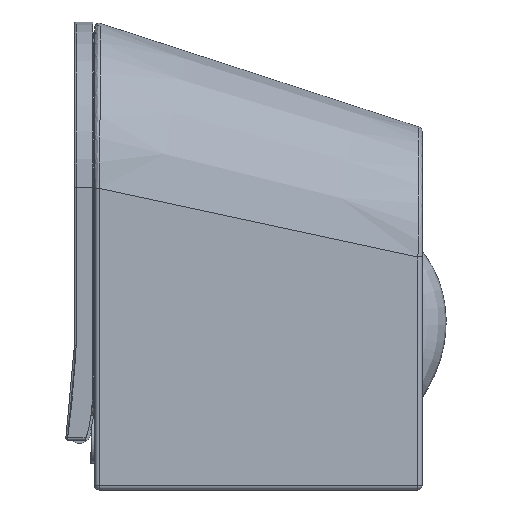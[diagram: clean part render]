
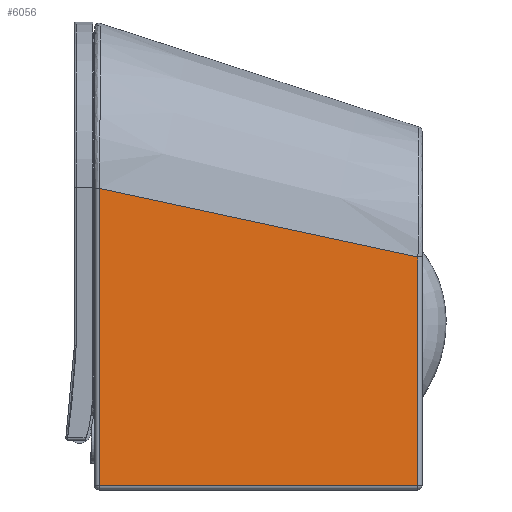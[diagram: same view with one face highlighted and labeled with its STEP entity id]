
A CAD part, left-side view. The second image highlights one B-rep face of the part: STEP entity #6056.
In plain terms, the highlighted planar face has unit normal (-0.995, -0.104, 0).
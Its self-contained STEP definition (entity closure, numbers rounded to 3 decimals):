
#821=FACE_OUTER_BOUND('',#1217,.T.);
#1217=EDGE_LOOP('',(#4088,#4089,#4090,#4091));
#1750=LINE('',#10551,#2137);
#1751=LINE('',#10556,#2138);
#1753=LINE('',#10562,#2140);
#1754=LINE('',#10563,#2141);
#2137=VECTOR('',#7328,251.155);
#2138=VECTOR('',#7335,351.928);
#2140=VECTOR('',#7341,359.917);
#2141=VECTOR('',#7342,326.568);
#2531=VERTEX_POINT('',#10296);
#2532=VERTEX_POINT('',#10549);
#2533=VERTEX_POINT('',#10555);
#2535=VERTEX_POINT('',#10561);
#3117=EDGE_CURVE('',#2531,#2532,#1750,.T.);
#3119=EDGE_CURVE('',#2533,#2532,#1751,.T.);
#3122=EDGE_CURVE('',#2535,#2531,#1753,.T.);
#3123=EDGE_CURVE('',#2533,#2535,#1754,.T.);
#4088=ORIENTED_EDGE('',*,*,#3119,.T.);
#4089=ORIENTED_EDGE('',*,*,#3117,.F.);
#4090=ORIENTED_EDGE('',*,*,#3122,.F.);
#4091=ORIENTED_EDGE('',*,*,#3123,.F.);
#5941=PLANE('',#6523);
#6056=ADVANCED_FACE('',(#821),#5941,.T.);
#6523=AXIS2_PLACEMENT_3D('',#10560,#7339,#7340);
#7328=DIRECTION('',(0.,0.,-1.));
#7335=DIRECTION('',(0.105,-0.995,0.));
#7339=DIRECTION('center_axis',(-0.995,-0.105,0.));
#7340=DIRECTION('ref_axis',(0.,0.,1.));
#7341=DIRECTION('',(0.102,-0.972,-0.21));
#7342=DIRECTION('',(0.,0.,1.));
#10296=CARTESIAN_POINT('',(-142.633,4.477,-1.345));
#10549=CARTESIAN_POINT('',(-142.633,4.477,-252.5));
#10551=CARTESIAN_POINT('',(-142.633,4.477,-1.345));
#10555=CARTESIAN_POINT('',(-179.42,354.477,-252.5));
#10556=CARTESIAN_POINT('',(-179.42,354.477,-252.5));
#10560=CARTESIAN_POINT('Origin',(-180.,360.,-267.19));
#10561=CARTESIAN_POINT('',(-179.42,354.477,74.068));
#10562=CARTESIAN_POINT('',(-179.42,354.477,74.068));
#10563=CARTESIAN_POINT('',(-179.42,354.477,-252.5));
